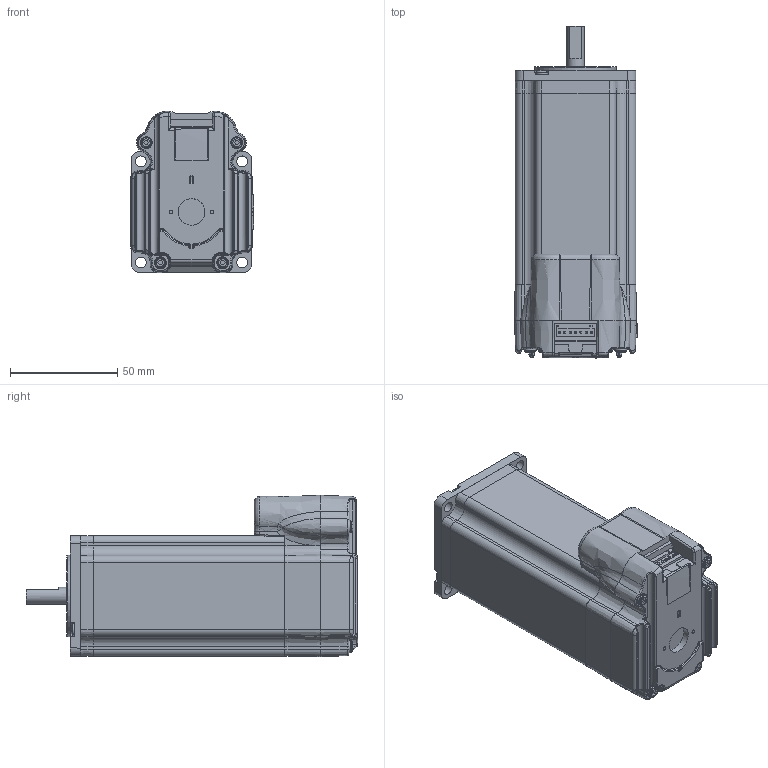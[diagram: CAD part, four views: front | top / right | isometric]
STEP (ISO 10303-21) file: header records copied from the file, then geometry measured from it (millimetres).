
FILE_DESCRIPTION(('MDrive23Plus, Quad Stack, P1 (IO PWR, P) and P2 (RD or RL 10-Pin)'),'1');
FILE_NAME('MDrive23Plus, Quad Stack, P1 (IO PWR, P) and P2 (RD or RL 10-Pin).st','2009-05-11T14:54:11',('P. Bordua'),('Intelligent Motion Systems, Inc.'),'Spatial Interop R18','Kubotek KeyCreator V8.0.1 (11344)','KC');
FILE_SCHEMA(('automotive_design'));
Length unit declared in the file: inch
Products named in the file (2): MDrive23Plus,  Quad Stack, P1 (IO PWR, P)  and  P2 (RD or RL 10-Pin)[3]
Bounding box: 57.34 x 154.72 x 75.2 mm (x, y, z)
Volume: 408444.7 mm3; surface area: 48169.8 mm2
Topology: 2 solids, 3 shells, 818 faces, 2095 edges, 1304 vertices
Faces by surface type: plane 373, bspline 231, cylinder 124, torus 38, cone 27, sphere 25
Full cylindrical faces by diameter (mm): 1.041 x7, 3.175 x2, 5 x4, 5.563 x4, 5.588 x4, 8 x1, 8.001 x1, 10.16 x1, 12.446 x1, 38.1 x1
Entity records: 66478 total; most frequent: CARTESIAN_POINT 23612, PRESENTATION_STYLE_ASSIGNMENT 4884, COLOUR_RGB 4884, STYLED_ITEM 4064, ORIENTED_EDGE 4008, CURVE_STYLE 2824, DRAUGHTING_PRE_DEFINED_CURVE_FONT 2824, DIRECTION 2411
